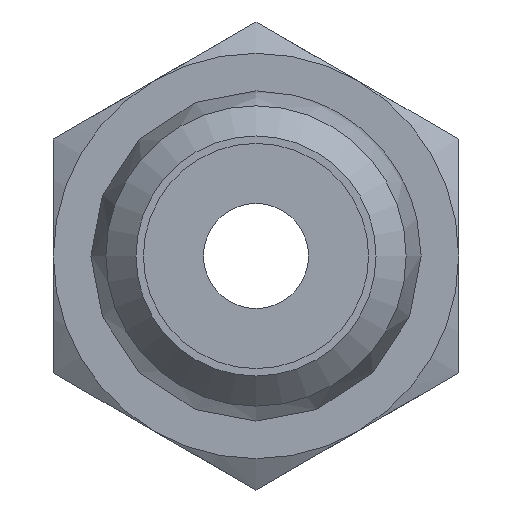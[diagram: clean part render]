
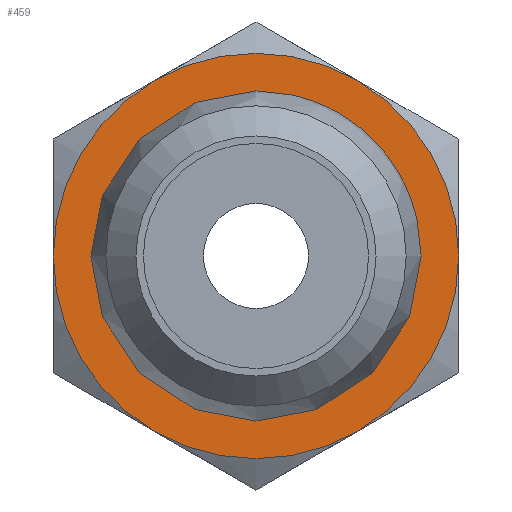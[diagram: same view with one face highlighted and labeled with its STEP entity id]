
A CAD part, front view. The second image highlights one B-rep face of the part: STEP entity #459.
In plain terms, the highlighted planar face has unit normal (0, -1, 0).
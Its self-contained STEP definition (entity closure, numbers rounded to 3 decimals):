
#53=FACE_BOUND('',#117,.T.);
#61=PLANE('',#527);
#85=FACE_OUTER_BOUND('',#116,.T.);
#116=EDGE_LOOP('',(#342,#343,#344,#345,#346,#347));
#117=EDGE_LOOP('',(#348));
#160=CIRCLE('',#501,13.5);
#161=CIRCLE('',#503,13.5);
#162=CIRCLE('',#505,13.5);
#163=CIRCLE('',#507,13.5);
#164=CIRCLE('',#509,13.5);
#165=CIRCLE('',#511,13.5);
#172=CIRCLE('',#528,10.);
#187=VERTEX_POINT('',#686);
#188=VERTEX_POINT('',#690);
#190=VERTEX_POINT('',#697);
#192=VERTEX_POINT('',#707);
#194=VERTEX_POINT('',#717);
#196=VERTEX_POINT('',#730);
#210=VERTEX_POINT('',#812);
#226=EDGE_CURVE('',#187,#188,#160,.T.);
#229=EDGE_CURVE('',#190,#187,#161,.T.);
#232=EDGE_CURVE('',#192,#190,#162,.T.);
#235=EDGE_CURVE('',#194,#192,#163,.T.);
#237=EDGE_CURVE('',#196,#194,#164,.T.);
#240=EDGE_CURVE('',#188,#196,#165,.T.);
#264=EDGE_CURVE('',#210,#210,#172,.T.);
#342=ORIENTED_EDGE('',*,*,#240,.T.);
#343=ORIENTED_EDGE('',*,*,#237,.T.);
#344=ORIENTED_EDGE('',*,*,#235,.T.);
#345=ORIENTED_EDGE('',*,*,#232,.T.);
#346=ORIENTED_EDGE('',*,*,#229,.T.);
#347=ORIENTED_EDGE('',*,*,#226,.T.);
#348=ORIENTED_EDGE('',*,*,#264,.F.);
#459=ADVANCED_FACE('',(#85,#53),#61,.F.);
#501=AXIS2_PLACEMENT_3D('',#694,#565,#566);
#503=AXIS2_PLACEMENT_3D('',#704,#569,#570);
#505=AXIS2_PLACEMENT_3D('',#714,#573,#574);
#507=AXIS2_PLACEMENT_3D('',#724,#577,#578);
#509=AXIS2_PLACEMENT_3D('',#731,#581,#582);
#511=AXIS2_PLACEMENT_3D('',#740,#585,#586);
#527=AXIS2_PLACEMENT_3D('',#811,#621,#622);
#528=AXIS2_PLACEMENT_3D('',#813,#623,#624);
#565=DIRECTION('center_axis',(0.,-1.,0.));
#566=DIRECTION('ref_axis',(0.,0.,1.));
#569=DIRECTION('center_axis',(0.,-1.,0.));
#570=DIRECTION('ref_axis',(0.,0.,1.));
#573=DIRECTION('center_axis',(0.,-1.,0.));
#574=DIRECTION('ref_axis',(0.,0.,1.));
#577=DIRECTION('center_axis',(0.,-1.,0.));
#578=DIRECTION('ref_axis',(0.,0.,1.));
#581=DIRECTION('center_axis',(0.,-1.,0.));
#582=DIRECTION('ref_axis',(0.,0.,1.));
#585=DIRECTION('center_axis',(0.,-1.,0.));
#586=DIRECTION('ref_axis',(0.,0.,1.));
#621=DIRECTION('center_axis',(0.,1.,0.));
#622=DIRECTION('ref_axis',(0.,0.,1.));
#623=DIRECTION('center_axis',(0.,-1.,0.));
#624=DIRECTION('ref_axis',(1.,0.,0.));
#686=CARTESIAN_POINT('',(-13.221,47.265,-11.691));
#690=CARTESIAN_POINT('',(-6.471,47.265,0.));
#694=CARTESIAN_POINT('Origin',(-19.971,47.265,0.));
#697=CARTESIAN_POINT('',(-26.721,47.265,-11.691));
#704=CARTESIAN_POINT('Origin',(-19.971,47.265,0.));
#707=CARTESIAN_POINT('',(-33.471,47.265,0.));
#714=CARTESIAN_POINT('Origin',(-19.971,47.265,0.));
#717=CARTESIAN_POINT('',(-26.721,47.265,11.691));
#724=CARTESIAN_POINT('Origin',(-19.971,47.265,0.));
#730=CARTESIAN_POINT('',(-13.221,47.265,11.691));
#731=CARTESIAN_POINT('Origin',(-19.971,47.265,0.));
#740=CARTESIAN_POINT('Origin',(-19.971,47.265,0.));
#811=CARTESIAN_POINT('Origin',(-19.971,47.265,0.));
#812=CARTESIAN_POINT('',(-29.971,47.265,0.));
#813=CARTESIAN_POINT('Origin',(-19.971,47.265,0.));
